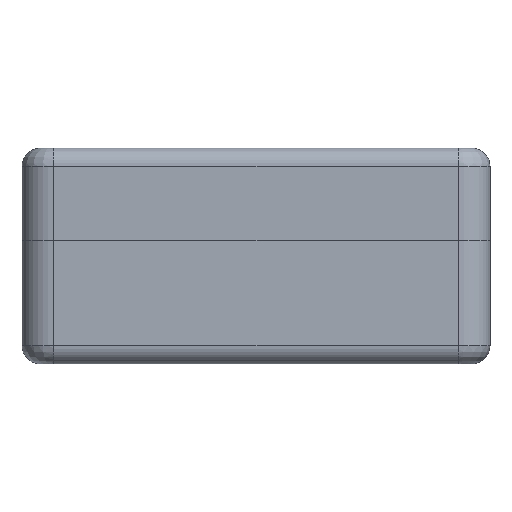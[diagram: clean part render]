
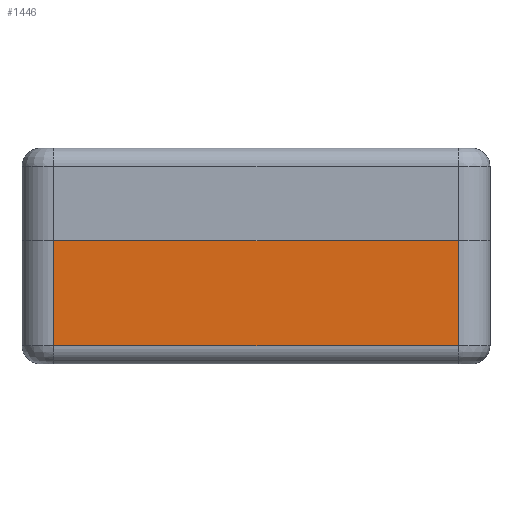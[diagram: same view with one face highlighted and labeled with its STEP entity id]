
A CAD part, left-side view. The second image highlights one B-rep face of the part: STEP entity #1446.
In plain terms, the highlighted planar face has unit normal (-1, 0, 0).
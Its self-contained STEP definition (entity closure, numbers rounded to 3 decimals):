
#106 = CYLINDRICAL_SURFACE('',#107,2.1);
#107 = AXIS2_PLACEMENT_3D('',#108,#109,#110);
#108 = CARTESIAN_POINT('',(0.45,-26.65,-8.02));
#109 = DIRECTION('',(0.,0.,1.));
#110 = DIRECTION('',(0.,-1.,0.));
#133 = PLANE('',#134);
#134 = AXIS2_PLACEMENT_3D('',#135,#136,#137);
#135 = CARTESIAN_POINT('',(-6.25,-33.35,0.1));
#136 = DIRECTION('',(0.,0.,1.));
#137 = DIRECTION('',(1.,0.,0.));
#332 = VERTEX_POINT('',#333);
#333 = CARTESIAN_POINT('',(-1.65,-26.65,-6.82));
#370 = EDGE_CURVE('',#332,#371,#373,.T.);
#371 = VERTEX_POINT('',#372);
#372 = CARTESIAN_POINT('',(-1.65,-26.65,0.1));
#373 = SURFACE_CURVE('',#374,(#378,#385),.PCURVE_S1.);
#374 = LINE('',#375,#376);
#375 = CARTESIAN_POINT('',(-1.65,-26.65,-8.02));
#376 = VECTOR('',#377,1.);
#377 = DIRECTION('',(0.,0.,1.));
#378 = PCURVE('',#106,#379);
#379 = DEFINITIONAL_REPRESENTATION('',(#380),#384);
#380 = LINE('',#381,#382);
#381 = CARTESIAN_POINT('',(-1.571,0.));
#382 = VECTOR('',#383,1.);
#383 = DIRECTION('',(-0.,1.));
#384 = ( GEOMETRIC_REPRESENTATION_CONTEXT(2) 
PARAMETRIC_REPRESENTATION_CONTEXT() REPRESENTATION_CONTEXT('2D SPACE',''
  ) );
#385 = PCURVE('',#386,#391);
#386 = PLANE('',#387);
#387 = AXIS2_PLACEMENT_3D('',#388,#389,#390);
#388 = CARTESIAN_POINT('',(-1.65,2.05,-8.02));
#389 = DIRECTION('',(1.,0.,-0.));
#390 = DIRECTION('',(0.,-1.,0.));
#391 = DEFINITIONAL_REPRESENTATION('',(#392),#396);
#392 = LINE('',#393,#394);
#393 = CARTESIAN_POINT('',(28.7,0.));
#394 = VECTOR('',#395,1.);
#395 = DIRECTION('',(0.,-1.));
#396 = ( GEOMETRIC_REPRESENTATION_CONTEXT(2) 
PARAMETRIC_REPRESENTATION_CONTEXT() REPRESENTATION_CONTEXT('2D SPACE',''
  ) );
#439 = CYLINDRICAL_SURFACE('',#440,1.2);
#440 = AXIS2_PLACEMENT_3D('',#441,#442,#443);
#441 = CARTESIAN_POINT('',(-0.45,-0.05,-6.82));
#442 = DIRECTION('',(0.,-1.,0.));
#443 = DIRECTION('',(-1.,-0.,0.));
#862 = CYLINDRICAL_SURFACE('',#863,2.1);
#863 = AXIS2_PLACEMENT_3D('',#864,#865,#866);
#864 = CARTESIAN_POINT('',(0.45,-0.05,-8.02));
#865 = DIRECTION('',(0.,0.,1.));
#866 = DIRECTION('',(-0.,1.,0.));
#1178 = VERTEX_POINT('',#1179);
#1179 = CARTESIAN_POINT('',(-1.65,-0.05,-6.82));
#1201 = EDGE_CURVE('',#1178,#1202,#1204,.T.);
#1202 = VERTEX_POINT('',#1203);
#1203 = CARTESIAN_POINT('',(-1.65,-0.05,0.1));
#1204 = SURFACE_CURVE('',#1205,(#1209,#1216),.PCURVE_S1.);
#1205 = LINE('',#1206,#1207);
#1206 = CARTESIAN_POINT('',(-1.65,-0.05,-8.02));
#1207 = VECTOR('',#1208,1.);
#1208 = DIRECTION('',(0.,0.,1.));
#1209 = PCURVE('',#862,#1210);
#1210 = DEFINITIONAL_REPRESENTATION('',(#1211),#1215);
#1211 = LINE('',#1212,#1213);
#1212 = CARTESIAN_POINT('',(1.571,0.));
#1213 = VECTOR('',#1214,1.);
#1214 = DIRECTION('',(0.,1.));
#1215 = ( GEOMETRIC_REPRESENTATION_CONTEXT(2) 
PARAMETRIC_REPRESENTATION_CONTEXT() REPRESENTATION_CONTEXT('2D SPACE',''
  ) );
#1216 = PCURVE('',#386,#1217);
#1217 = DEFINITIONAL_REPRESENTATION('',(#1218),#1222);
#1218 = LINE('',#1219,#1220);
#1219 = CARTESIAN_POINT('',(2.1,0.));
#1220 = VECTOR('',#1221,1.);
#1221 = DIRECTION('',(0.,-1.));
#1222 = ( GEOMETRIC_REPRESENTATION_CONTEXT(2) 
PARAMETRIC_REPRESENTATION_CONTEXT() REPRESENTATION_CONTEXT('2D SPACE',''
  ) );
#1426 = EDGE_CURVE('',#1178,#332,#1427,.T.);
#1427 = SURFACE_CURVE('',#1428,(#1432,#1439),.PCURVE_S1.);
#1428 = LINE('',#1429,#1430);
#1429 = CARTESIAN_POINT('',(-1.65,-0.05,-6.82));
#1430 = VECTOR('',#1431,1.);
#1431 = DIRECTION('',(0.,-1.,0.));
#1432 = PCURVE('',#439,#1433);
#1433 = DEFINITIONAL_REPRESENTATION('',(#1434),#1438);
#1434 = LINE('',#1435,#1436);
#1435 = CARTESIAN_POINT('',(0.,0.));
#1436 = VECTOR('',#1437,1.);
#1437 = DIRECTION('',(0.,1.));
#1438 = ( GEOMETRIC_REPRESENTATION_CONTEXT(2) 
PARAMETRIC_REPRESENTATION_CONTEXT() REPRESENTATION_CONTEXT('2D SPACE',''
  ) );
#1439 = PCURVE('',#386,#1440);
#1440 = DEFINITIONAL_REPRESENTATION('',(#1441),#1445);
#1441 = LINE('',#1442,#1443);
#1442 = CARTESIAN_POINT('',(2.1,-1.2));
#1443 = VECTOR('',#1444,1.);
#1444 = DIRECTION('',(1.,0.));
#1445 = ( GEOMETRIC_REPRESENTATION_CONTEXT(2) 
PARAMETRIC_REPRESENTATION_CONTEXT() REPRESENTATION_CONTEXT('2D SPACE',''
  ) );
#1446 = ADVANCED_FACE('',(#1447),#386,.F.);
#1447 = FACE_BOUND('',#1448,.F.);
#1448 = EDGE_LOOP('',(#1449,#1450,#1451,#1470));
#1449 = ORIENTED_EDGE('',*,*,#1426,.F.);
#1450 = ORIENTED_EDGE('',*,*,#1201,.T.);
#1451 = ORIENTED_EDGE('',*,*,#1452,.T.);
#1452 = EDGE_CURVE('',#1202,#371,#1453,.T.);
#1453 = SURFACE_CURVE('',#1454,(#1458,#1464),.PCURVE_S1.);
#1454 = LINE('',#1455,#1456);
#1455 = CARTESIAN_POINT('',(-1.65,-15.65,0.1));
#1456 = VECTOR('',#1457,1.);
#1457 = DIRECTION('',(0.,-1.,0.));
#1458 = PCURVE('',#386,#1459);
#1459 = DEFINITIONAL_REPRESENTATION('',(#1460),#1463);
#1460 = B_SPLINE_CURVE_WITH_KNOTS('',1,(#1461,#1462),.UNSPECIFIED.,.F.,
  .F.,(2,2),(-15.6,11.),.PIECEWISE_BEZIER_KNOTS.);
#1461 = CARTESIAN_POINT('',(2.1,-8.12));
#1462 = CARTESIAN_POINT('',(28.7,-8.12));
#1463 = ( GEOMETRIC_REPRESENTATION_CONTEXT(2) 
PARAMETRIC_REPRESENTATION_CONTEXT() REPRESENTATION_CONTEXT('2D SPACE',''
  ) );
#1464 = PCURVE('',#133,#1465);
#1465 = DEFINITIONAL_REPRESENTATION('',(#1466),#1469);
#1466 = B_SPLINE_CURVE_WITH_KNOTS('',1,(#1467,#1468),.UNSPECIFIED.,.F.,
  .F.,(2,2),(-15.6,11.),.PIECEWISE_BEZIER_KNOTS.);
#1467 = CARTESIAN_POINT('',(4.6,33.3));
#1468 = CARTESIAN_POINT('',(4.6,6.7));
#1469 = ( GEOMETRIC_REPRESENTATION_CONTEXT(2) 
PARAMETRIC_REPRESENTATION_CONTEXT() REPRESENTATION_CONTEXT('2D SPACE',''
  ) );
#1470 = ORIENTED_EDGE('',*,*,#370,.F.);
